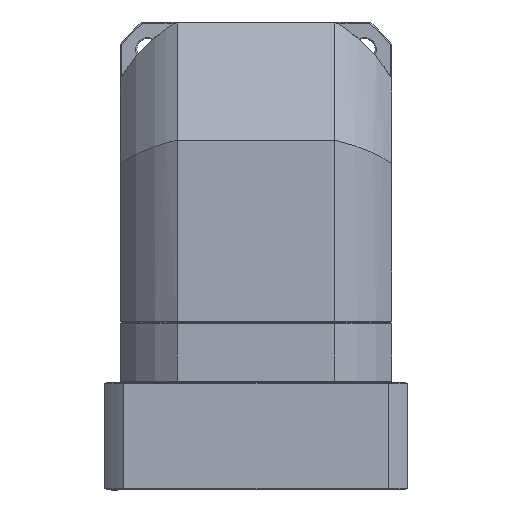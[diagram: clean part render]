
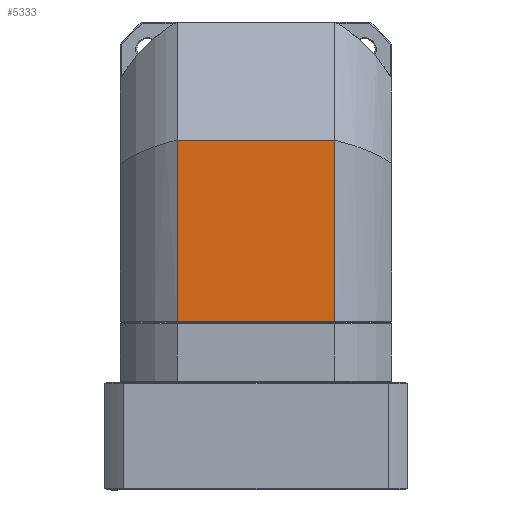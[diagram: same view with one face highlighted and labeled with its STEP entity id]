
A CAD part, front view. The second image highlights one B-rep face of the part: STEP entity #5333.
In plain terms, the highlighted planar face has unit normal (0, 1, 0).
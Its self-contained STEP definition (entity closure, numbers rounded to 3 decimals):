
#775 = CARTESIAN_POINT ( 'NONE',  ( 33.407, -261.111, 7.5 ) ) ;
#2565 = LINE ( 'NONE', #95002, #84614 ) ;
#5333 = ADVANCED_FACE ( 'NONE', ( #94421 ), #82363, .F. ) ;
#6182 = VERTEX_POINT ( 'NONE', #775 ) ;
#6820 = VECTOR ( 'NONE', #102223, 1000. ) ;
#7970 = CARTESIAN_POINT ( 'NONE',  ( -33.407, -261.111, -69.2 ) ) ;
#13237 = CARTESIAN_POINT ( 'NONE',  ( 0., -261.111, 7.5 ) ) ;
#14532 = ORIENTED_EDGE ( 'NONE', *, *, #63799, .F. ) ;
#17795 = VERTEX_POINT ( 'NONE', #72617 ) ;
#17932 = LINE ( 'NONE', #13237, #22937 ) ;
#19125 = DIRECTION ( 'NONE',  ( 0., -1., 0. ) ) ;
#22937 = VECTOR ( 'NONE', #68861, 1000. ) ;
#31457 = EDGE_CURVE ( 'NONE', #93828, #6182, #17932, .T. ) ;
#35266 = CARTESIAN_POINT ( 'NONE',  ( 0., -261.111, -69.2 ) ) ;
#39313 = CARTESIAN_POINT ( 'NONE',  ( -33.407, -261.111, 7.5 ) ) ;
#42138 = VECTOR ( 'NONE', #82878, 1000. ) ;
#43141 = VERTEX_POINT ( 'NONE', #7970 ) ;
#49144 = LINE ( 'NONE', #102890, #6820 ) ;
#55105 = ORIENTED_EDGE ( 'NONE', *, *, #85997, .F. ) ;
#56170 = DIRECTION ( 'NONE',  ( 0., 0., -1. ) ) ;
#63008 = ORIENTED_EDGE ( 'NONE', *, *, #31457, .T. ) ;
#63289 = LINE ( 'NONE', #35266, #42138 ) ;
#63799 = EDGE_CURVE ( 'NONE', #43141, #17795, #63289, .T. ) ;
#66748 = CARTESIAN_POINT ( 'NONE',  ( -33.407, -261.111, -69.2 ) ) ;
#68861 = DIRECTION ( 'NONE',  ( 1., 0., 0. ) ) ;
#72236 = AXIS2_PLACEMENT_3D ( 'NONE', #66748, #19125, #74723 ) ;
#72617 = CARTESIAN_POINT ( 'NONE',  ( 33.407, -261.111, -69.2 ) ) ;
#74723 = DIRECTION ( 'NONE',  ( 1., 0., 0. ) ) ;
#77949 = EDGE_CURVE ( 'NONE', #6182, #17795, #49144, .T. ) ;
#81265 = ORIENTED_EDGE ( 'NONE', *, *, #77949, .T. ) ;
#82363 = PLANE ( 'NONE',  #72236 ) ;
#82878 = DIRECTION ( 'NONE',  ( 1., 0., 0. ) ) ;
#83979 = EDGE_LOOP ( 'NONE', ( #81265, #14532, #55105, #63008 ) ) ;
#84614 = VECTOR ( 'NONE', #56170, 1000. ) ;
#85997 = EDGE_CURVE ( 'NONE', #93828, #43141, #2565, .T. ) ;
#93828 = VERTEX_POINT ( 'NONE', #39313 ) ;
#94421 = FACE_OUTER_BOUND ( 'NONE', #83979, .T. ) ;
#95002 = CARTESIAN_POINT ( 'NONE',  ( -33.407, -261.111, -30.85 ) ) ;
#102223 = DIRECTION ( 'NONE',  ( 0., 0., -1. ) ) ;
#102890 = CARTESIAN_POINT ( 'NONE',  ( 33.407, -261.111, -30.62 ) ) ;
